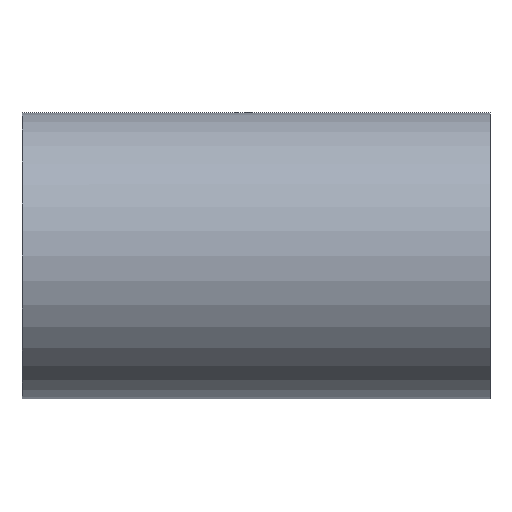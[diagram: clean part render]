
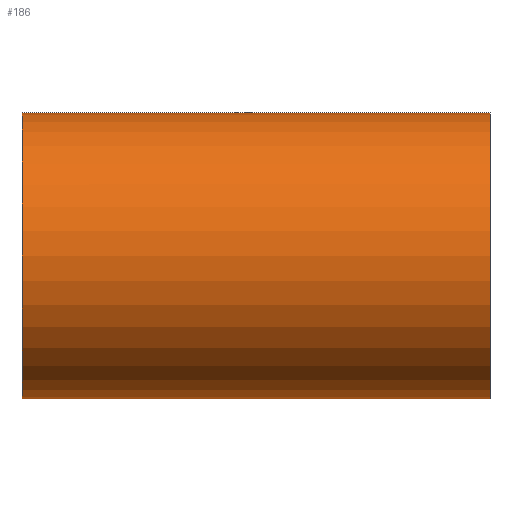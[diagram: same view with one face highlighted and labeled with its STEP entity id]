
A CAD part, front view. The second image highlights one B-rep face of the part: STEP entity #186.
In plain terms, the highlighted cylindrical face has radius 550 mm (diameter 1100 mm), a partial arc.
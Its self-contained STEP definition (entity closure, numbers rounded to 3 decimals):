
#186=ADVANCED_FACE('',(#374),#375,.T.);
#374=FACE_OUTER_BOUND('',#589,.T.);
#375=CYLINDRICAL_SURFACE('',#590,550.0);
#589=EDGE_LOOP('',(#1079,#1080,#1081,#1082));
#590=AXIS2_PLACEMENT_3D('',#1083,#1084,#1085);
#1079=ORIENTED_EDGE('',*,*,#1167,.T.);
#1080=ORIENTED_EDGE('',*,*,#1373,.F.);
#1081=ORIENTED_EDGE('',*,*,#1169,.T.);
#1082=ORIENTED_EDGE('',*,*,#1374,.F.);
#1083=CARTESIAN_POINT('',(0.0,0.0,0.0));
#1084=DIRECTION('',(1.0,0.0,0.0));
#1085=DIRECTION('',(0.0,0.0,-1.0));
#1167=EDGE_CURVE('',#1378,#1379,#1380,.T.);
#1169=EDGE_CURVE('',#1383,#1381,#1384,.T.);
#1373=EDGE_CURVE('',#1383,#1379,#1687,.T.);
#1374=EDGE_CURVE('',#1378,#1381,#1688,.T.);
#1378=VERTEX_POINT('',#1692);
#1379=VERTEX_POINT('',#1693);
#1380=LINE('',#1694,#1695);
#1381=VERTEX_POINT('',#1696);
#1383=VERTEX_POINT('',#1698);
#1384=LINE('',#1699,#1700);
#1687=CIRCLE('',#2063,550.0);
#1688=CIRCLE('',#2064,550.0);
#1692=CARTESIAN_POINT('',(-900.0,0.0,-550.0));
#1693=CARTESIAN_POINT('',(900.0,0.0,-550.0));
#1694=CARTESIAN_POINT('',(0.0,0.,-550.0));
#1695=VECTOR('',#2067,1.0);
#1696=CARTESIAN_POINT('',(-900.0,0.,550.0));
#1698=CARTESIAN_POINT('',(900.0,0.,550.0));
#1699=CARTESIAN_POINT('',(0.0,0.,550.0));
#1700=VECTOR('',#2071,1.0);
#2063=AXIS2_PLACEMENT_3D('',#2402,#2403,#2404);
#2064=AXIS2_PLACEMENT_3D('',#2405,#2406,#2407);
#2067=DIRECTION('',(1.0,0.0,0.0));
#2071=DIRECTION('',(-1.0,-0.0,-0.0));
#2402=CARTESIAN_POINT('',(900.0,0.0,0.0));
#2403=DIRECTION('',(1.0,0.0,0.0));
#2404=DIRECTION('',(0.0,0.0,-1.0));
#2405=CARTESIAN_POINT('',(-900.0,0.0,0.0));
#2406=DIRECTION('',(-1.0,0.0,0.0));
#2407=DIRECTION('',(0.0,0.0,-1.0));
